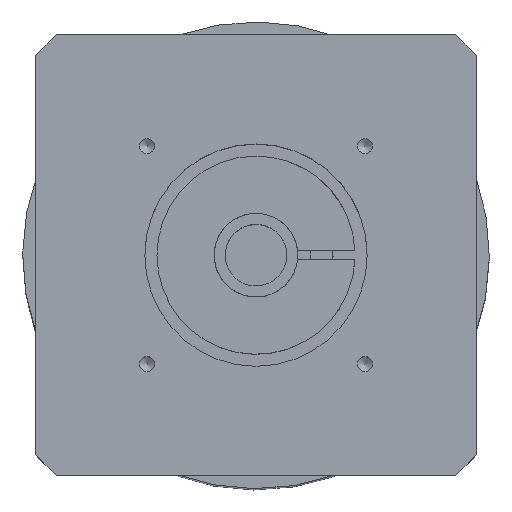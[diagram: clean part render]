
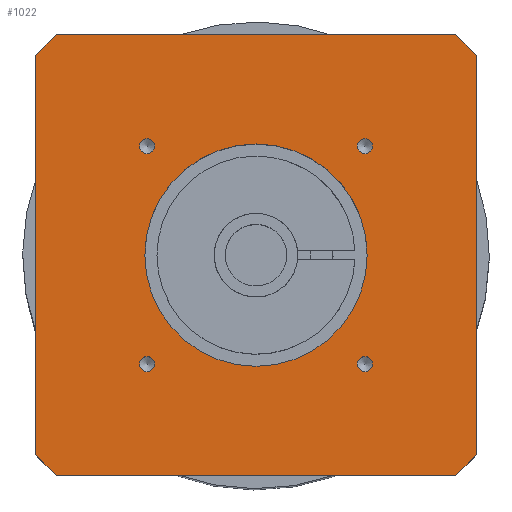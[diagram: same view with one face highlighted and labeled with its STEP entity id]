
A CAD part, top view. The second image highlights one B-rep face of the part: STEP entity #1022.
In plain terms, the highlighted planar face has unit normal (0, 0, 1).
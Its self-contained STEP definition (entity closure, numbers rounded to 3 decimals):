
#1022=ADVANCED_FACE('',(#1242,#1243,#1244,#1245,#1246,#1247),#1103,.T.);
#1103=PLANE('',#2079);
#1143=LINE('',#2633,#1193);
#1146=LINE('',#2641,#1196);
#1149=LINE('',#2651,#1199);
#1152=LINE('',#2659,#1202);
#1193=VECTOR('',#2242,1.);
#1196=VECTOR('',#2251,1.);
#1199=VECTOR('',#2262,1.);
#1202=VECTOR('',#2271,1.);
#1242=FACE_BOUND('',#1355,.T.);
#1243=FACE_BOUND('',#1356,.T.);
#1244=FACE_BOUND('',#1357,.T.);
#1245=FACE_BOUND('',#1358,.T.);
#1246=FACE_BOUND('',#1359,.T.);
#1247=FACE_BOUND('',#1360,.T.);
#1355=EDGE_LOOP('',(#1528));
#1356=EDGE_LOOP('',(#1529));
#1357=EDGE_LOOP('',(#1530));
#1358=EDGE_LOOP('',(#1531));
#1359=EDGE_LOOP('',(#1532));
#1360=EDGE_LOOP('',(#1533,#1534,#1535,#1536,#1537,#1538,#1539,#1540));
#1528=ORIENTED_EDGE('',*,*,#1875,.F.);
#1529=ORIENTED_EDGE('',*,*,#1876,.T.);
#1530=ORIENTED_EDGE('',*,*,#1877,.T.);
#1531=ORIENTED_EDGE('',*,*,#1878,.T.);
#1532=ORIENTED_EDGE('',*,*,#1879,.T.);
#1533=ORIENTED_EDGE('',*,*,#1859,.F.);
#1534=ORIENTED_EDGE('',*,*,#1874,.T.);
#1535=ORIENTED_EDGE('',*,*,#1872,.F.);
#1536=ORIENTED_EDGE('',*,*,#1870,.T.);
#1537=ORIENTED_EDGE('',*,*,#1868,.F.);
#1538=ORIENTED_EDGE('',*,*,#1865,.T.);
#1539=ORIENTED_EDGE('',*,*,#1863,.F.);
#1540=ORIENTED_EDGE('',*,*,#1861,.T.);
#1753=VERTEX_POINT('',#2632);
#1754=VERTEX_POINT('',#2634);
#1755=VERTEX_POINT('',#2638);
#1756=VERTEX_POINT('',#2642);
#1757=VERTEX_POINT('',#2646);
#1759=VERTEX_POINT('',#2652);
#1760=VERTEX_POINT('',#2656);
#1761=VERTEX_POINT('',#2660);
#1762=VERTEX_POINT('',#2666);
#1763=VERTEX_POINT('',#2668);
#1764=VERTEX_POINT('',#2670);
#1765=VERTEX_POINT('',#2672);
#1766=VERTEX_POINT('',#2674);
#1859=EDGE_CURVE('',#1753,#1754,#1143,.T.);
#1861=EDGE_CURVE('',#1755,#1754,#1983,.T.);
#1863=EDGE_CURVE('',#1755,#1756,#1146,.T.);
#1865=EDGE_CURVE('',#1757,#1756,#1984,.T.);
#1868=EDGE_CURVE('',#1757,#1759,#1149,.T.);
#1870=EDGE_CURVE('',#1760,#1759,#1986,.T.);
#1872=EDGE_CURVE('',#1760,#1761,#1152,.T.);
#1874=EDGE_CURVE('',#1753,#1761,#1987,.T.);
#1875=EDGE_CURVE('',#1762,#1762,#1988,.T.);
#1876=EDGE_CURVE('',#1763,#1763,#1989,.T.);
#1877=EDGE_CURVE('',#1764,#1764,#1990,.T.);
#1878=EDGE_CURVE('',#1765,#1765,#1991,.T.);
#1879=EDGE_CURVE('',#1766,#1766,#1992,.T.);
#1983=CIRCLE('',#2062,67.5);
#1984=CIRCLE('',#2065,67.5);
#1986=CIRCLE('',#2069,67.5);
#1987=CIRCLE('',#2072,67.5);
#1988=CIRCLE('',#2074,25.25);
#1989=CIRCLE('',#2075,1.716);
#1990=CIRCLE('',#2076,1.716);
#1991=CIRCLE('',#2077,1.716);
#1992=CIRCLE('',#2078,1.716);
#2062=AXIS2_PLACEMENT_3D('',#2637,#2246,#2247);
#2065=AXIS2_PLACEMENT_3D('',#2645,#2255,#2256);
#2069=AXIS2_PLACEMENT_3D('',#2655,#2266,#2267);
#2072=AXIS2_PLACEMENT_3D('',#2663,#2275,#2276);
#2074=AXIS2_PLACEMENT_3D('',#2665,#2279,#2280);
#2075=AXIS2_PLACEMENT_3D('',#2667,#2281,#2282);
#2076=AXIS2_PLACEMENT_3D('',#2669,#2283,#2284);
#2077=AXIS2_PLACEMENT_3D('',#2671,#2285,#2286);
#2078=AXIS2_PLACEMENT_3D('',#2673,#2287,#2288);
#2079=AXIS2_PLACEMENT_3D('',#2675,#2289,#2290);
#2242=DIRECTION('',(0.,-1.,0.));
#2246=DIRECTION('',(0.,0.,1.));
#2247=DIRECTION('',(1.,0.,0.));
#2251=DIRECTION('',(-1.,0.,0.));
#2255=DIRECTION('',(0.,0.,1.));
#2256=DIRECTION('',(1.,0.,0.));
#2262=DIRECTION('',(0.,1.,0.));
#2266=DIRECTION('',(0.,0.,1.));
#2267=DIRECTION('',(1.,0.,0.));
#2271=DIRECTION('',(1.,0.,0.));
#2275=DIRECTION('',(0.,0.,1.));
#2276=DIRECTION('',(1.,0.,0.));
#2279=DIRECTION('',(0.,0.,1.));
#2280=DIRECTION('',(1.,0.,0.));
#2281=DIRECTION('',(0.,0.,-1.));
#2282=DIRECTION('',(0.,1.,0.));
#2283=DIRECTION('',(0.,0.,-1.));
#2284=DIRECTION('',(1.,0.,0.));
#2285=DIRECTION('',(0.,0.,-1.));
#2286=DIRECTION('',(0.,-1.,0.));
#2287=DIRECTION('',(0.,0.,-1.));
#2288=DIRECTION('',(-1.,0.,0.));
#2289=DIRECTION('',(0.,0.,1.));
#2290=DIRECTION('',(1.,0.,0.));
#2632=CARTESIAN_POINT('',(50.,45.346,28.));
#2633=CARTESIAN_POINT('',(50.,45.346,28.));
#2634=CARTESIAN_POINT('',(50.,-45.346,28.));
#2637=CARTESIAN_POINT('',(0.,0.,28.));
#2638=CARTESIAN_POINT('',(45.346,-50.,28.));
#2641=CARTESIAN_POINT('',(45.346,-50.,28.));
#2642=CARTESIAN_POINT('',(-45.346,-50.,28.));
#2645=CARTESIAN_POINT('',(0.,0.,28.));
#2646=CARTESIAN_POINT('',(-50.,-45.346,28.));
#2651=CARTESIAN_POINT('',(-50.,-45.346,28.));
#2652=CARTESIAN_POINT('',(-50.,45.346,28.));
#2655=CARTESIAN_POINT('',(0.,0.,28.));
#2656=CARTESIAN_POINT('',(-45.346,50.,28.));
#2659=CARTESIAN_POINT('',(-45.346,50.,28.));
#2660=CARTESIAN_POINT('',(45.346,50.,28.));
#2663=CARTESIAN_POINT('',(0.,0.,28.));
#2665=CARTESIAN_POINT('',(0.,0.,28.));
#2666=CARTESIAN_POINT('',(25.25,0.,28.));
#2667=CARTESIAN_POINT('',(-24.749,-24.749,28.));
#2668=CARTESIAN_POINT('',(-24.749,-23.033,28.));
#2669=CARTESIAN_POINT('',(-24.749,24.749,28.));
#2670=CARTESIAN_POINT('',(-23.033,24.749,28.));
#2671=CARTESIAN_POINT('',(24.749,24.749,28.));
#2672=CARTESIAN_POINT('',(24.749,23.033,28.));
#2673=CARTESIAN_POINT('',(24.749,-24.749,28.));
#2674=CARTESIAN_POINT('',(23.033,-24.749,28.));
#2675=CARTESIAN_POINT('',(0.,0.,28.));
